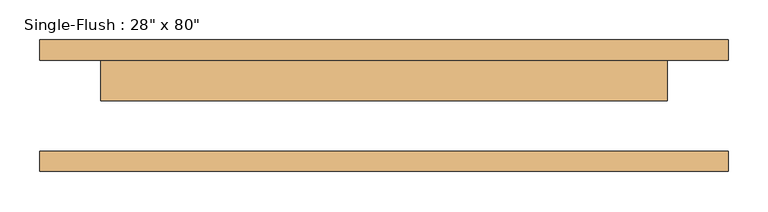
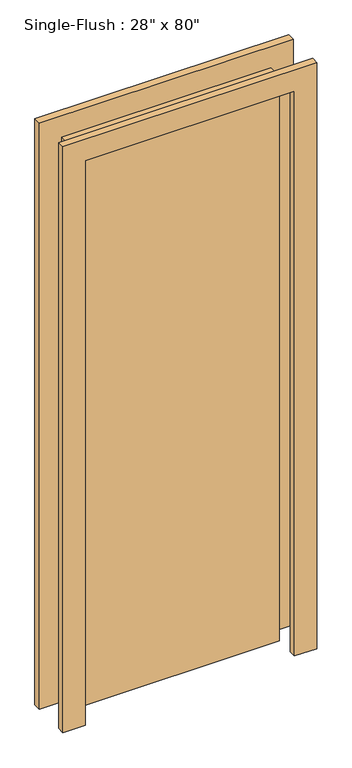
"""IFC4 building model written with IfcOpenShell, lengths in millimetres: door geometry."""

from ifc_helpers import new_model, si_unit, frame, origin, origin_with_axes, place, context, project, spatial, polyline, outline, extrude, source, transform, mapped, element, save


def door_f2586ccf(model_context):
    return source(origin(), model_context, "Body", "SweptSolid", [
        extrude(outline(polyline([(2108.2, -431.8), (0.0, -431.8), (0.0, -355.6), (2032.0, -355.6), (2032.0, 355.6), (0.0, 355.6), (0.0, 431.8), (2108.2, 431.8), (2108.2, -431.8)])), frame((0.0, 57.15, 0.0), z_axis=(0.0, 1.0, 0.0), x_axis=(0.0, 0.0, 1.0)), (0.0, 0.0, 1.0), 25.4),
        extrude(outline(polyline([(2108.2, 431.8), (2108.2, -431.8), (0.0, -431.8), (0.0, -355.6), (2032.0, -355.6), (2032.0, 355.6), (0.0, 355.6), (0.0, 431.8), (2108.2, 431.8)])), frame((0.0, -82.55, 0.0), z_axis=(0.0, 1.0, 0.0), x_axis=(0.0, 0.0, 1.0)), (0.0, 0.0, 1.0), 25.4),
        extrude(outline(polyline([(355.6, 6.35), (-355.6, 6.35), (-355.6, 57.15), (355.6, 57.15), (355.6, 6.35)])), origin_with_axes(), (0.0, 0.0, 1.0), 2032.0),
    ])


if __name__ == "__main__":
    model = new_model("IFC4")
    model_context = context("Model", 3, world=origin())
    ifc_project = project(units=[si_unit("LENGTHUNIT", "METRE", prefix="MILLI")], contexts=[model_context])
    site = spatial("IfcSite", under=ifc_project)
    building = spatial("IfcBuilding", under=site)
    placement = place(None, origin())
    door_shape = door_f2586ccf(model_context)
    element("IfcDoor", 1, ObjectType="Single-Flush : 28\" x 80\"", at=placement, inside=building, context=model_context, shape_type="MappedRepresentation", body=[
        mapped(door_shape, transform((0.0, 0.0, 0.0), x_axis=(1.0, 0.0, 0.0), y_axis=(0.0, 1.0, 0.0), z_axis=(0.0, 0.0, 1.0))),
    ])
    save(model, "model.ifc")
